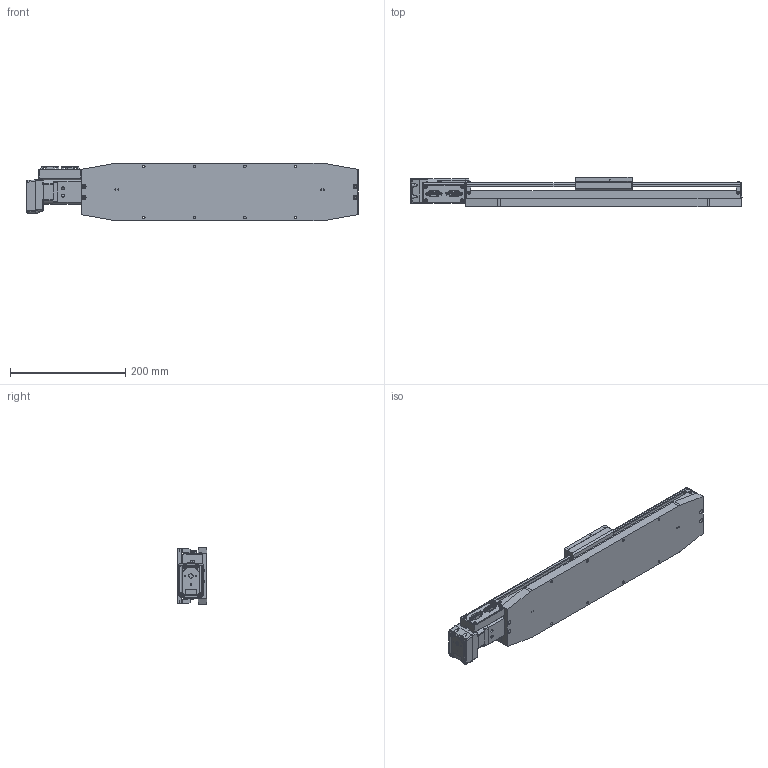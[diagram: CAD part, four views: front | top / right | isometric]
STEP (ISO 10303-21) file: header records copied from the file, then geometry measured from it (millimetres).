
FILE_DESCRIPTION (( 'STEP AP214' ), '1' );
FILE_NAME ('L3500.350-STA_v2_20180822.STEP', '2018-08-22T11:27:32', ( '' ), ( '' ), 'SwSTEP 2.0', 'SolidWorks 2017', '' );
FILE_SCHEMA (( 'AUTOMOTIVE_DESIGN' ));
Length unit declared in the file: millimetre
Products named in the file (1): L3500.350-STA_v2_20180822
Bounding box: 575.13 x 51.67 x 99.06 mm (x, y, z)
Surface area: 390106.5 mm2 (no closed solid volume)
Topology: 0 solids, 37 shells, 3029 faces, 7997 edges, 5150 vertices
Faces by surface type: plane 1335, cylinder 1112, bspline 292, cone 225, torus 65
Entity records: 127297 total; most frequent: CARTESIAN_POINT 54135, ORIENTED_EDGE 15633, DIRECTION 14123, EDGE_CURVE 7828, VERTEX_POINT 5150, AXIS2_PLACEMENT_3D 4929, LINE 4265, VECTOR 4265
